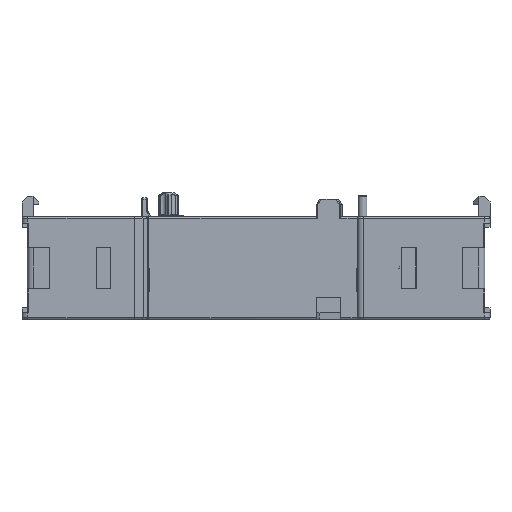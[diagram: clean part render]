
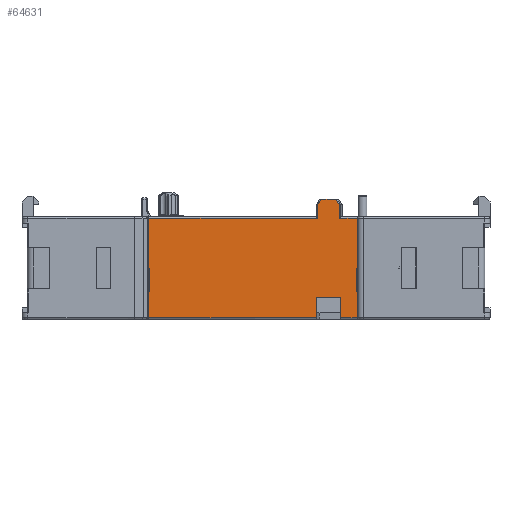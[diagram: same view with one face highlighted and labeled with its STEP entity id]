
A CAD part, front view. The second image highlights one B-rep face of the part: STEP entity #64631.
In plain terms, the highlighted planar face has unit normal (0, -1, 0).
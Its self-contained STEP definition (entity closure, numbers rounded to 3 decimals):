
#5270=DIRECTION('',(0.,0.,1.));
#5271=VECTOR('',#5270,4.55);
#5272=CARTESIAN_POINT('',(9.9,-46.,0.3));
#5273=LINE('',#5272,#5271);
#5286=DIRECTION('',(-1.,0.,0.));
#5287=VECTOR('',#5286,0.1);
#5288=CARTESIAN_POINT('',(9.9,-46.,8.85));
#5289=LINE('',#5288,#5287);
#11276=DIRECTION('',(1.,0.,0.));
#11277=VECTOR('',#11276,0.1);
#11278=CARTESIAN_POINT('',(-26.1,-46.,4.85));
#11279=LINE('',#11278,#11277);
#11280=DIRECTION('',(0.,0.,-1.));
#11281=VECTOR('',#11280,8.55);
#11282=CARTESIAN_POINT('',(-26.1,-46.,17.4));
#11283=LINE('',#11282,#11281);
#11284=DIRECTION('',(1.,0.,0.));
#11285=VECTOR('',#11284,29.092);
#11286=CARTESIAN_POINT('',(-26.1,-46.,17.4));
#11287=LINE('',#11286,#11285);
#11288=DIRECTION('',(-0.506,0.,-0.863));
#11289=VECTOR('',#11288,1.221);
#11290=CARTESIAN_POINT('',(3.61,-46.,20.7));
#11291=LINE('',#11290,#11289);
#11292=DIRECTION('',(-0.506,0.,0.863));
#11293=VECTOR('',#11292,1.221);
#11294=CARTESIAN_POINT('',(6.851,-46.,19.646));
#11295=LINE('',#11294,#11293);
#11296=DIRECTION('',(1.,0.,0.));
#11297=VECTOR('',#11296,3.049);
#11298=CARTESIAN_POINT('',(6.851,-46.,17.4));
#11299=LINE('',#11298,#11297);
#11300=DIRECTION('',(0.,0.,-1.));
#11301=VECTOR('',#11300,8.55);
#11302=CARTESIAN_POINT('',(9.9,-46.,17.4));
#11303=LINE('',#11302,#11301);
#11304=DIRECTION('',(0.,0.,-1.));
#11305=VECTOR('',#11304,4.);
#11306=CARTESIAN_POINT('',(9.8,-46.,8.85));
#11307=LINE('',#11306,#11305);
#11308=DIRECTION('',(1.,0.,0.));
#11309=VECTOR('',#11308,0.1);
#11310=CARTESIAN_POINT('',(9.8,-46.,4.85));
#11311=LINE('',#11310,#11309);
#11312=DIRECTION('',(-1.,0.,0.));
#11313=VECTOR('',#11312,2.932);
#11314=CARTESIAN_POINT('',(9.9,-46.,0.3));
#11315=LINE('',#11314,#11313);
#11316=DIRECTION('',(0.,0.,1.));
#11317=VECTOR('',#11316,3.5);
#11318=CARTESIAN_POINT('',(6.968,-46.,0.3));
#11319=LINE('',#11318,#11317);
#11320=DIRECTION('',(-1.,0.,0.));
#11321=VECTOR('',#11320,4.163);
#11322=CARTESIAN_POINT('',(6.968,-46.,3.8));
#11323=LINE('',#11322,#11321);
#11324=DIRECTION('',(0.,0.,1.));
#11325=VECTOR('',#11324,3.5);
#11326=CARTESIAN_POINT('',(2.805,-46.,0.3));
#11327=LINE('',#11326,#11325);
#11328=DIRECTION('',(-1.,0.,0.));
#11329=VECTOR('',#11328,28.905);
#11330=CARTESIAN_POINT('',(2.805,-46.,0.3));
#11331=LINE('',#11330,#11329);
#11332=DIRECTION('',(0.,0.,1.));
#11333=VECTOR('',#11332,4.55);
#11334=CARTESIAN_POINT('',(-26.1,-46.,0.3));
#11335=LINE('',#11334,#11333);
#11360=DIRECTION('',(0.,0.,-1.));
#11361=VECTOR('',#11360,4.);
#11362=CARTESIAN_POINT('',(-26.,-46.,8.85));
#11363=LINE('',#11362,#11361);
#11364=DIRECTION('',(-1.,0.,0.));
#11365=VECTOR('',#11364,0.1);
#11366=CARTESIAN_POINT('',(-26.,-46.,8.85));
#11367=LINE('',#11366,#11365);
#11480=CARTESIAN_POINT('',(2.805,-46.,0.3));
#11522=CARTESIAN_POINT('',(6.968,-46.,0.3));
#13038=DIRECTION('',(0.,0.,1.));
#13039=VECTOR('',#13038,2.246);
#13040=CARTESIAN_POINT('',(6.851,-46.,17.4));
#13041=LINE('',#13040,#13039);
#13087=CARTESIAN_POINT('',(3.61,-46.,20.7));
#13133=CARTESIAN_POINT('',(6.233,-46.,20.7));
#13138=DIRECTION('',(1.,0.,0.));
#13139=VECTOR('',#13138,2.623);
#13140=CARTESIAN_POINT('',(3.61,-46.,20.7));
#13141=LINE('',#13140,#13139);
#13142=DIRECTION('',(0.,0.,-1.));
#13143=VECTOR('',#13142,2.246);
#13144=CARTESIAN_POINT('',(2.992,-46.,19.646));
#13145=LINE('',#13144,#13143);
#41094=CARTESIAN_POINT('',(-26.1,-46.,4.85));
#41095=VERTEX_POINT('',#41094);
#41096=CARTESIAN_POINT('',(9.9,-46.,4.85));
#41097=VERTEX_POINT('',#41096);
#41433=CARTESIAN_POINT('',(6.968,-46.,3.8));
#41434=CARTESIAN_POINT('',(2.805,-46.,3.8));
#41435=VERTEX_POINT('',#41433);
#41436=VERTEX_POINT('',#41434);
#42726=CARTESIAN_POINT('',(9.9,-46.,0.3));
#42727=VERTEX_POINT('',#42726);
#42731=VERTEX_POINT('',#11522);
#42732=VERTEX_POINT('',#11480);
#42736=CARTESIAN_POINT('',(-26.1,-46.,0.3));
#42737=VERTEX_POINT('',#42736);
#48889=CARTESIAN_POINT('',(9.8,-46.,8.85));
#48891=VERTEX_POINT('',#48889);
#48892=CARTESIAN_POINT('',(-26.,-46.,8.85));
#48894=VERTEX_POINT('',#48892);
#49649=VERTEX_POINT('',#13087);
#49650=CARTESIAN_POINT('',(2.992,-46.,19.646));
#49651=VERTEX_POINT('',#49650);
#49670=VERTEX_POINT('',#13133);
#49674=CARTESIAN_POINT('',(6.851,-46.,19.646));
#49675=VERTEX_POINT('',#49674);
#51007=CARTESIAN_POINT('',(6.851,-46.,17.4));
#51008=CARTESIAN_POINT('',(9.9,-46.,17.4));
#51009=VERTEX_POINT('',#51007);
#51010=VERTEX_POINT('',#51008);
#51065=CARTESIAN_POINT('',(-26.1,-46.,17.4));
#51066=VERTEX_POINT('',#51065);
#51067=CARTESIAN_POINT('',(2.992,-46.,17.4));
#51068=VERTEX_POINT('',#51067);
#51109=CARTESIAN_POINT('',(9.9,-46.,8.85));
#51111=VERTEX_POINT('',#51109);
#51210=CARTESIAN_POINT('',(-26.1,-46.,8.85));
#51211=VERTEX_POINT('',#51210);
#51216=CARTESIAN_POINT('',(9.8,-46.,4.85));
#51217=VERTEX_POINT('',#51216);
#51218=CARTESIAN_POINT('',(-26.,-46.,4.85));
#51219=VERTEX_POINT('',#51218);
#64584=CARTESIAN_POINT('',(-27.1,-46.,1.15));
#64585=DIRECTION('',(0.,-1.,0.));
#64586=DIRECTION('',(1.,0.,0.));
#64587=AXIS2_PLACEMENT_3D('',#64584,#64585,#64586);
#64588=PLANE('',#64587);
#64590=ORIENTED_EDGE('',*,*,#64589,.T.);
#64592=ORIENTED_EDGE('',*,*,#64591,.F.);
#64594=ORIENTED_EDGE('',*,*,#64593,.T.);
#64596=ORIENTED_EDGE('',*,*,#64595,.F.);
#64597=ORIENTED_EDGE('',*,*,#64573,.T.);
#64599=ORIENTED_EDGE('',*,*,#64598,.F.);
#64601=ORIENTED_EDGE('',*,*,#64600,.F.);
#64603=ORIENTED_EDGE('',*,*,#64602,.T.);
#64605=ORIENTED_EDGE('',*,*,#64604,.F.);
#64607=ORIENTED_EDGE('',*,*,#64606,.F.);
#64609=ORIENTED_EDGE('',*,*,#64608,.T.);
#64610=ORIENTED_EDGE('',*,*,#57171,.T.);
#64611=ORIENTED_EDGE('',*,*,#57199,.T.);
#64613=ORIENTED_EDGE('',*,*,#64612,.T.);
#64615=ORIENTED_EDGE('',*,*,#64614,.T.);
#64616=ORIENTED_EDGE('',*,*,#57178,.F.);
#64618=ORIENTED_EDGE('',*,*,#64617,.T.);
#64620=ORIENTED_EDGE('',*,*,#64619,.T.);
#64622=ORIENTED_EDGE('',*,*,#64621,.T.);
#64624=ORIENTED_EDGE('',*,*,#64623,.F.);
#64626=ORIENTED_EDGE('',*,*,#64625,.T.);
#64628=ORIENTED_EDGE('',*,*,#64627,.T.);
#64629=EDGE_LOOP('',(#64590,#64592,#64594,#64596,#64597,#64599,#64601,#64603,
#64605,#64607,#64609,#64610,#64611,#64613,#64615,#64616,#64618,#64620,#64622,
#64624,#64626,#64628));
#64630=FACE_OUTER_BOUND('',#64629,.F.);
#64631=ADVANCED_FACE('',(#64630),#64588,.T.);
#57171=EDGE_CURVE('',#51010,#51111,#11303,.T.);
#57178=EDGE_CURVE('',#42727,#41097,#5273,.T.);
#57199=EDGE_CURVE('',#51111,#48891,#5289,.T.);
#64573=EDGE_CURVE('',#51066,#51068,#11287,.T.);
#64589=EDGE_CURVE('',#41095,#51219,#11279,.T.);
#64591=EDGE_CURVE('',#48894,#51219,#11363,.T.);
#64593=EDGE_CURVE('',#48894,#51211,#11367,.T.);
#64595=EDGE_CURVE('',#51066,#51211,#11283,.T.);
#64598=EDGE_CURVE('',#49651,#51068,#13145,.T.);
#64600=EDGE_CURVE('',#49649,#49651,#11291,.T.);
#64602=EDGE_CURVE('',#49649,#49670,#13141,.T.);
#64604=EDGE_CURVE('',#49675,#49670,#11295,.T.);
#64606=EDGE_CURVE('',#51009,#49675,#13041,.T.);
#64608=EDGE_CURVE('',#51009,#51010,#11299,.T.);
#64612=EDGE_CURVE('',#48891,#51217,#11307,.T.);
#64614=EDGE_CURVE('',#51217,#41097,#11311,.T.);
#64617=EDGE_CURVE('',#42727,#42731,#11315,.T.);
#64619=EDGE_CURVE('',#42731,#41435,#11319,.T.);
#64621=EDGE_CURVE('',#41435,#41436,#11323,.T.);
#64623=EDGE_CURVE('',#42732,#41436,#11327,.T.);
#64625=EDGE_CURVE('',#42732,#42737,#11331,.T.);
#64627=EDGE_CURVE('',#42737,#41095,#11335,.T.);
